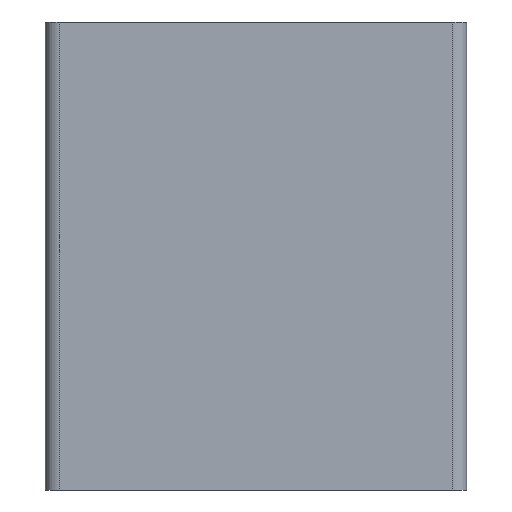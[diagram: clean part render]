
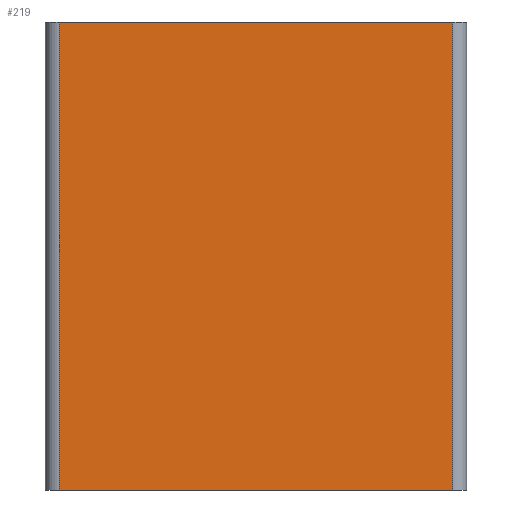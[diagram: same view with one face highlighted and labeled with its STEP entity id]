
A CAD part, front view. The second image highlights one B-rep face of the part: STEP entity #219.
In plain terms, the highlighted planar face has unit normal (0, -1, 0).
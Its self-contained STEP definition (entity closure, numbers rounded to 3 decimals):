
#16 = CARTESIAN_POINT ( 'NONE',  ( -27., -15., 0. ) ) ;
#77 = VECTOR ( 'NONE', #427, 1000. ) ;
#121 = CARTESIAN_POINT ( 'NONE',  ( 57., -15., 0. ) ) ;
#139 = VECTOR ( 'NONE', #1504, 1000. ) ;
#149 = CARTESIAN_POINT ( 'NONE',  ( -27., -15., 100. ) ) ;
#159 = EDGE_CURVE ( 'NONE', #568, #543, #330, .T. ) ;
#205 = CARTESIAN_POINT ( 'NONE',  ( -27., -15., 100. ) ) ;
#210 = CARTESIAN_POINT ( 'NONE',  ( 57., -15., 100. ) ) ;
#219 = ADVANCED_FACE ( 'NONE', ( #2522 ), #1078, .F. ) ;
#258 = ORIENTED_EDGE ( 'NONE', *, *, #159, .T. ) ;
#330 = LINE ( 'NONE', #205, #77 ) ;
#344 = LINE ( 'NONE', #16, #1416 ) ;
#427 = DIRECTION ( 'NONE',  ( 0., 0., -1. ) ) ;
#484 = VERTEX_POINT ( 'NONE', #121 ) ;
#543 = VERTEX_POINT ( 'NONE', #1314 ) ;
#566 = CARTESIAN_POINT ( 'NONE',  ( 57., -15., 100. ) ) ;
#568 = VERTEX_POINT ( 'NONE', #149 ) ;
#603 = AXIS2_PLACEMENT_3D ( 'NONE', #1805, #1579, #1562 ) ;
#609 = EDGE_CURVE ( 'NONE', #568, #1443, #1091, .T. ) ;
#648 = DIRECTION ( 'NONE',  ( 1., 0., 0. ) ) ;
#970 = VECTOR ( 'NONE', #648, 1000. ) ;
#1034 = ORIENTED_EDGE ( 'NONE', *, *, #1700, .F. ) ;
#1078 = PLANE ( 'NONE',  #603 ) ;
#1091 = LINE ( 'NONE', #2053, #970 ) ;
#1314 = CARTESIAN_POINT ( 'NONE',  ( -27., -15., 0. ) ) ;
#1363 = ORIENTED_EDGE ( 'NONE', *, *, #609, .F. ) ;
#1392 = DIRECTION ( 'NONE',  ( 1., 0., 0. ) ) ;
#1416 = VECTOR ( 'NONE', #1392, 1000. ) ;
#1443 = VERTEX_POINT ( 'NONE', #566 ) ;
#1462 = LINE ( 'NONE', #210, #139 ) ;
#1487 = EDGE_LOOP ( 'NONE', ( #1525, #1034, #1363, #258 ) ) ;
#1504 = DIRECTION ( 'NONE',  ( 0., 0., -1. ) ) ;
#1525 = ORIENTED_EDGE ( 'NONE', *, *, #2369, .T. ) ;
#1562 = DIRECTION ( 'NONE',  ( -1., 0., 0. ) ) ;
#1579 = DIRECTION ( 'NONE',  ( 0., 1., 0. ) ) ;
#1700 = EDGE_CURVE ( 'NONE', #1443, #484, #1462, .T. ) ;
#1805 = CARTESIAN_POINT ( 'NONE',  ( -27., -15., 100. ) ) ;
#2053 = CARTESIAN_POINT ( 'NONE',  ( -27., -15., 100. ) ) ;
#2369 = EDGE_CURVE ( 'NONE', #543, #484, #344, .T. ) ;
#2522 = FACE_OUTER_BOUND ( 'NONE', #1487, .T. ) ;
